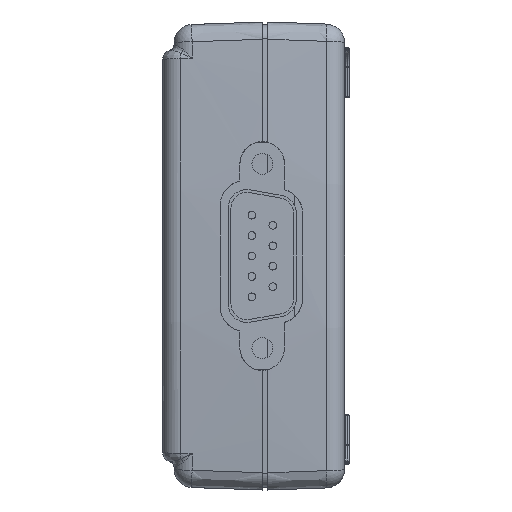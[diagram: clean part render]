
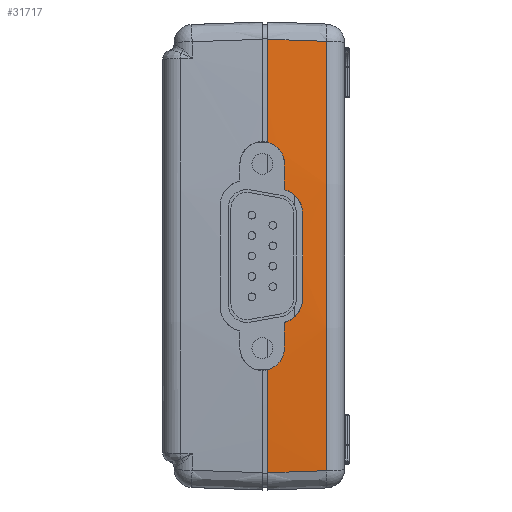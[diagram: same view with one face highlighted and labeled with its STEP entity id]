
A CAD part, left-side view. The second image highlights one B-rep face of the part: STEP entity #31717.
In plain terms, the highlighted conical face has half-angle 2 degrees and reference radius 380.861 mm.
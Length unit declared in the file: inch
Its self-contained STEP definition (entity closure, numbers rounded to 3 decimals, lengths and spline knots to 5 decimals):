
#6169=CARTESIAN_POINT('',(13.5,0.203,0.));
#6170=DIRECTION('',(0.,-1.,0.));
#6171=DIRECTION('',(-0.999,0.,-0.04));
#6172=AXIS2_PLACEMENT_3D('',#6169,#6170,#6171);
#6174=CARTESIAN_POINT('',(-1.44512,-0.11049,
-1.14676));
#6175=CARTESIAN_POINT('',(-1.44625,-0.07568,
-1.14798));
#6176=CARTESIAN_POINT('',(-1.4485,-0.00605,
-1.15043));
#6177=CARTESIAN_POINT('',(-1.45187,0.09844,
-1.1541));
#6178=CARTESIAN_POINT('',(-1.45413,0.16814,
-1.15655));
#6179=CARTESIAN_POINT('',(-1.45525,0.203,-1.15777));
#6220=CARTESIAN_POINT('',(-1.48882,0.114,-0.492));
#6221=CARTESIAN_POINT('',(-1.48866,0.114,-0.49675));
#6222=CARTESIAN_POINT('',(-1.48837,0.11457,
-0.50624));
#6223=CARTESIAN_POINT('',(-1.48798,0.11712,
-0.5203));
#6224=CARTESIAN_POINT('',(-1.48764,0.12132,
-0.5339));
#6225=CARTESIAN_POINT('',(-1.48738,0.12713,
-0.54696));
#6226=CARTESIAN_POINT('',(-1.48718,0.13442,
-0.55917));
#6227=CARTESIAN_POINT('',(-1.48706,0.14317,
-0.57049));
#6228=CARTESIAN_POINT('',(-1.48702,0.15314,
-0.58061));
#6229=CARTESIAN_POINT('',(-1.48706,0.16432,
-0.58953));
#6230=CARTESIAN_POINT('',(-1.48719,0.17642,
-0.59701));
#6231=CARTESIAN_POINT('',(-1.4874,0.18937,
-0.60302));
#6232=CARTESIAN_POINT('',(-1.4876,0.19841,
-0.60596));
#6233=CARTESIAN_POINT('',(-1.48771,0.203,-0.60716));
#6235=CARTESIAN_POINT('',(13.5,0.114,0.));
#6236=DIRECTION('',(0.,1.,0.));
#6237=DIRECTION('',(-0.999,0.,-0.033));
#6238=AXIS2_PLACEMENT_3D('',#6235,#6236,#6237);
#6240=CARTESIAN_POINT('',(-1.49177,0.01664,
-0.22745));
#6241=CARTESIAN_POINT('',(-1.49169,0.01664,
-0.23267));
#6242=CARTESIAN_POINT('',(-1.49155,0.01727,
-0.24312));
#6243=CARTESIAN_POINT('',(-1.49138,0.02004,
-0.25855));
#6244=CARTESIAN_POINT('',(-1.49128,0.02463,
-0.27357));
#6245=CARTESIAN_POINT('',(-1.49123,0.03095,
-0.2879));
#6246=CARTESIAN_POINT('',(-1.49124,0.03895,
-0.30143));
#6247=CARTESIAN_POINT('',(-1.49132,0.04846,
-0.31387));
#6248=CARTESIAN_POINT('',(-1.49146,0.05942,
-0.32514));
#6249=CARTESIAN_POINT('',(-1.49167,0.07159,
-0.335));
#6250=CARTESIAN_POINT('',(-1.49194,0.08488,
-0.34338));
#6251=CARTESIAN_POINT('',(-1.49228,0.09904,
-0.35011));
#6252=CARTESIAN_POINT('',(-1.49255,0.10896,
-0.35345));
#6253=CARTESIAN_POINT('',(-1.49269,0.114,-0.35482));
#6255=CARTESIAN_POINT('',(13.5,0.01664,0.));
#6256=DIRECTION('',(0.,1.,0.));
#6257=DIRECTION('',(-1.,0.,-0.015));
#6258=AXIS2_PLACEMENT_3D('',#6255,#6256,#6257);
#6260=CARTESIAN_POINT('',(-1.49269,0.114,0.35482));
#6261=CARTESIAN_POINT('',(-1.49255,0.10896,
0.35345));
#6262=CARTESIAN_POINT('',(-1.49228,0.09904,
0.35011));
#6263=CARTESIAN_POINT('',(-1.49194,0.08488,
0.34338));
#6264=CARTESIAN_POINT('',(-1.49167,0.07159,
0.335));
#6265=CARTESIAN_POINT('',(-1.49146,0.05942,
0.32514));
#6266=CARTESIAN_POINT('',(-1.49132,0.04846,
0.31387));
#6267=CARTESIAN_POINT('',(-1.49124,0.03895,
0.30143));
#6268=CARTESIAN_POINT('',(-1.49123,0.03095,
0.2879));
#6269=CARTESIAN_POINT('',(-1.49128,0.02463,
0.27357));
#6270=CARTESIAN_POINT('',(-1.49138,0.02004,
0.25855));
#6271=CARTESIAN_POINT('',(-1.49155,0.01727,
0.24312));
#6272=CARTESIAN_POINT('',(-1.49169,0.01664,
0.23267));
#6273=CARTESIAN_POINT('',(-1.49177,0.01664,
0.22745));
#6275=CARTESIAN_POINT('',(13.5,0.114,0.));
#6276=DIRECTION('',(0.,1.,0.));
#6277=DIRECTION('',(-1.,0.,0.024));
#6278=AXIS2_PLACEMENT_3D('',#6275,#6276,#6277);
#6280=CARTESIAN_POINT('',(-1.48771,0.203,0.60716));
#6281=CARTESIAN_POINT('',(-1.4876,0.19841,
0.60596));
#6282=CARTESIAN_POINT('',(-1.4874,0.18937,
0.60302));
#6283=CARTESIAN_POINT('',(-1.48719,0.17642,
0.59701));
#6284=CARTESIAN_POINT('',(-1.48706,0.16432,
0.58953));
#6285=CARTESIAN_POINT('',(-1.48702,0.15314,
0.58061));
#6286=CARTESIAN_POINT('',(-1.48706,0.14317,
0.57048));
#6287=CARTESIAN_POINT('',(-1.48718,0.13442,
0.55917));
#6288=CARTESIAN_POINT('',(-1.48738,0.12713,
0.54696));
#6289=CARTESIAN_POINT('',(-1.48764,0.12131,
0.5339));
#6290=CARTESIAN_POINT('',(-1.48798,0.11712,
0.5203));
#6291=CARTESIAN_POINT('',(-1.48837,0.11457,
0.50624));
#6292=CARTESIAN_POINT('',(-1.48866,0.114,0.49675));
#6293=CARTESIAN_POINT('',(-1.48882,0.114,0.492));
#6590=CARTESIAN_POINT('',(13.5,0.203,0.));
#6591=DIRECTION('',(0.,-1.,0.));
#6592=DIRECTION('',(-0.997,0.,0.077));
#6593=AXIS2_PLACEMENT_3D('',#6590,#6591,#6592);
#6628=CARTESIAN_POINT('',(-1.45525,0.203,1.15777));
#6629=CARTESIAN_POINT('',(-1.45413,0.16814,
1.15655));
#6630=CARTESIAN_POINT('',(-1.45187,0.09844,
1.1541));
#6631=CARTESIAN_POINT('',(-1.4485,-0.00605,
1.15043));
#6632=CARTESIAN_POINT('',(-1.44625,-0.07568,
1.14798));
#6633=CARTESIAN_POINT('',(-1.44512,-0.11049,
1.14676));
#6876=CARTESIAN_POINT('',(13.5,-0.11049,0.));
#6877=DIRECTION('',(0.,-1.,0.));
#6878=DIRECTION('',(-0.997,0.,0.077));
#6879=AXIS2_PLACEMENT_3D('',#6876,#6877,#6878);
#22983=VERTEX_POINT('',#6174);
#22984=VERTEX_POINT('',#6179);
#22986=CARTESIAN_POINT('',(-1.44512,-0.11049,
1.14676));
#22987=VERTEX_POINT('',#22986);
#22989=VERTEX_POINT('',#6628);
#23330=VERTEX_POINT('',#6220);
#23331=VERTEX_POINT('',#6233);
#23332=VERTEX_POINT('',#6280);
#23333=VERTEX_POINT('',#6293);
#23342=CARTESIAN_POINT('',(-1.49269,0.114,-0.35482));
#23343=VERTEX_POINT('',#23342);
#23344=CARTESIAN_POINT('',(-1.49269,0.114,0.35482));
#23345=VERTEX_POINT('',#23344);
#23497=CARTESIAN_POINT('',(-1.49177,0.01664,
-0.22745));
#23498=CARTESIAN_POINT('',(-1.49177,0.01664,
0.22745));
#23499=VERTEX_POINT('',#23497);
#23500=VERTEX_POINT('',#23498);
#31690=CARTESIAN_POINT('',(13.5,0.04626,0.));
#31691=DIRECTION('',(0.,1.,0.));
#31692=DIRECTION('',(1.,0.,0.));
#31693=AXIS2_PLACEMENT_3D('',#31690,#31691,#31692);
#31694=CONICAL_SURFACE('',#31693,14.99453,2.);
#31695=ORIENTED_EDGE('',*,*,#31680,.T.);
#31696=ORIENTED_EDGE('',*,*,#31646,.F.);
#31697=ORIENTED_EDGE('',*,*,#31562,.F.);
#31699=ORIENTED_EDGE('',*,*,#31698,.T.);
#31701=ORIENTED_EDGE('',*,*,#31700,.F.);
#31703=ORIENTED_EDGE('',*,*,#31702,.T.);
#31705=ORIENTED_EDGE('',*,*,#31704,.F.);
#31707=ORIENTED_EDGE('',*,*,#31706,.T.);
#31708=ORIENTED_EDGE('',*,*,#29536,.F.);
#31710=ORIENTED_EDGE('',*,*,#31709,.F.);
#31712=ORIENTED_EDGE('',*,*,#31711,.T.);
#31714=ORIENTED_EDGE('',*,*,#31713,.T.);
#31715=EDGE_LOOP('',(#31695,#31696,#31697,#31699,#31701,#31703,#31705,#31707,
#31708,#31710,#31712,#31714));
#31716=FACE_OUTER_BOUND('',#31715,.F.);
#31717=ADVANCED_FACE('',(#31716),#31694,.T.);
#6173=CIRCLE('',#6172,15.);
#6180=B_SPLINE_CURVE_WITH_KNOTS('',3,(#6174,#6175,#6176,#6177,#6178,#6179),
.UNSPECIFIED.,.F.,.F.,(4,1,1,4),(0.,0.33333,0.66667,1.),
.UNSPECIFIED.);
#6234=B_SPLINE_CURVE_WITH_KNOTS('',3,(#6220,#6221,#6222,#6223,#6224,#6225,#6226,
#6227,#6228,#6229,#6230,#6231,#6232,#6233),.UNSPECIFIED.,.F.,.F.,(4,1,1,1,1,1,1,
1,1,1,1,4),(0.,0.09091,0.18182,0.27273,
0.36364,0.45455,0.54545,0.63636,
0.72727,0.81818,0.90909,1.),.UNSPECIFIED.);
#6239=CIRCLE('',#6238,14.99689);
#6254=B_SPLINE_CURVE_WITH_KNOTS('',3,(#6240,#6241,#6242,#6243,#6244,#6245,#6246,
#6247,#6248,#6249,#6250,#6251,#6252,#6253),.UNSPECIFIED.,.F.,.F.,(4,1,1,1,1,1,1,
1,1,1,1,4),(0.,0.09091,0.18182,0.27273,
0.36364,0.45455,0.54545,0.63636,
0.72727,0.81818,0.90909,1.),.UNSPECIFIED.);
#6259=CIRCLE('',#6258,14.99349);
#6274=B_SPLINE_CURVE_WITH_KNOTS('',3,(#6260,#6261,#6262,#6263,#6264,#6265,#6266,
#6267,#6268,#6269,#6270,#6271,#6272,#6273),.UNSPECIFIED.,.F.,.F.,(4,1,1,1,1,1,1,
1,1,1,1,4),(0.,0.09091,0.18182,0.27273,
0.36364,0.45455,0.54545,0.63636,
0.72727,0.81818,0.90909,1.),.UNSPECIFIED.);
#6279=CIRCLE('',#6278,14.99689);
#6294=B_SPLINE_CURVE_WITH_KNOTS('',3,(#6280,#6281,#6282,#6283,#6284,#6285,#6286,
#6287,#6288,#6289,#6290,#6291,#6292,#6293),.UNSPECIFIED.,.F.,.F.,(4,1,1,1,1,1,1,
1,1,1,1,4),(0.,0.09091,0.18182,0.27273,
0.36364,0.45455,0.54545,0.63636,
0.72727,0.81818,0.90909,1.),.UNSPECIFIED.);
#6594=CIRCLE('',#6593,15.);
#6634=B_SPLINE_CURVE_WITH_KNOTS('',3,(#6628,#6629,#6630,#6631,#6632,#6633),
.UNSPECIFIED.,.F.,.F.,(4,1,1,4),(0.,0.33333,0.66667,1.),
.UNSPECIFIED.);
#6880=CIRCLE('',#6879,14.98905);
#29536=EDGE_CURVE('',#23332,#23333,#6294,.T.);
#31562=EDGE_CURVE('',#23330,#23331,#6234,.T.);
#31646=EDGE_CURVE('',#23331,#22984,#6173,.T.);
#31680=EDGE_CURVE('',#22983,#22984,#6180,.T.);
#31698=EDGE_CURVE('',#23330,#23343,#6239,.T.);
#31700=EDGE_CURVE('',#23499,#23343,#6254,.T.);
#31702=EDGE_CURVE('',#23499,#23500,#6259,.T.);
#31704=EDGE_CURVE('',#23345,#23500,#6274,.T.);
#31706=EDGE_CURVE('',#23345,#23333,#6279,.T.);
#31709=EDGE_CURVE('',#22989,#23332,#6594,.T.);
#31711=EDGE_CURVE('',#22989,#22987,#6634,.T.);
#31713=EDGE_CURVE('',#22987,#22983,#6880,.T.);
